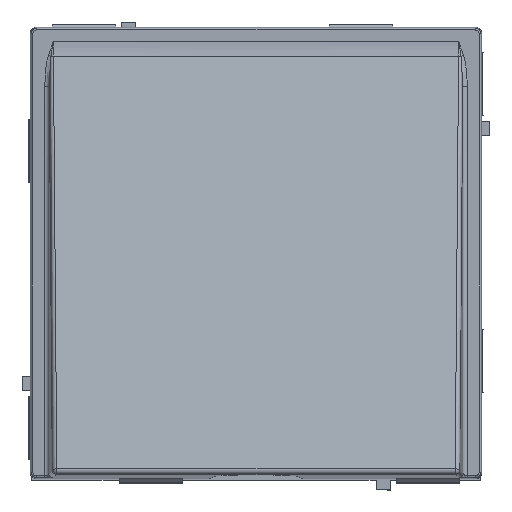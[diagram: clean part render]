
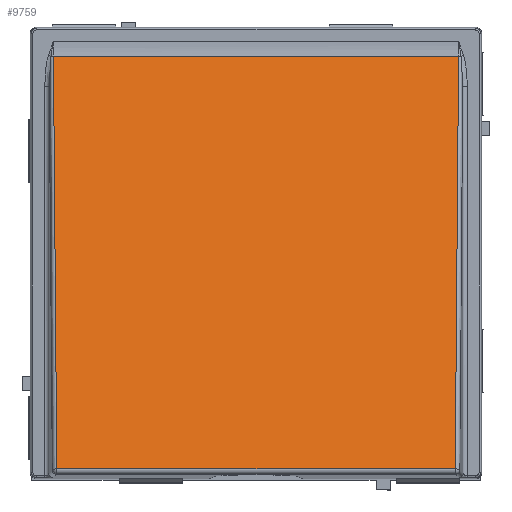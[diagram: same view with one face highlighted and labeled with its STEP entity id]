
A CAD part, top view. The second image highlights one B-rep face of the part: STEP entity #9759.
In plain terms, the highlighted planar face has unit normal (0, 0.227, 0.974).
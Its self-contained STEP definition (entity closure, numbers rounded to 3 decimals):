
#610 = CARTESIAN_POINT ( 'NONE',  ( 31.814, 31.382, 7.56 ) ) ;
#830 = LINE ( 'NONE', #5123, #27181 ) ;
#1719 = CARTESIAN_POINT ( 'NONE',  ( -35., -35., 23. ) ) ;
#1933 = VERTEX_POINT ( 'NONE', #6920 ) ;
#2104 = DIRECTION ( 'NONE',  ( 0.008, -0.974, 0.227 ) ) ;
#5123 = CARTESIAN_POINT ( 'NONE',  ( -35., -33.479, 22.646 ) ) ;
#5355 = VECTOR ( 'NONE', #18571, 1000. ) ;
#5722 = EDGE_CURVE ( 'NONE', #21691, #1933, #13214, .T. ) ;
#6920 = CARTESIAN_POINT ( 'NONE',  ( -31.287, -33.479, 22.646 ) ) ;
#8072 = CARTESIAN_POINT ( 'NONE',  ( -32.5, 31.382, 7.56 ) ) ;
#8309 = ORIENTED_EDGE ( 'NONE', *, *, #13809, .T. ) ;
#9759 = ADVANCED_FACE ( 'NONE', ( #21966 ), #28035, .F. ) ;
#9869 = CARTESIAN_POINT ( 'NONE',  ( -31.814, 31.382, 7.56 ) ) ;
#10297 = LINE ( 'NONE', #8072, #14875 ) ;
#10615 = DIRECTION ( 'NONE',  ( 0., -0.974, 0.227 ) ) ;
#11335 = EDGE_LOOP ( 'NONE', ( #16050, #8309, #19963, #22607 ) ) ;
#11414 = EDGE_CURVE ( 'NONE', #13469, #21691, #10297, .T. ) ;
#12170 = EDGE_CURVE ( 'NONE', #1933, #23821, #830, .T. ) ;
#13214 = LINE ( 'NONE', #15412, #25021 ) ;
#13469 = VERTEX_POINT ( 'NONE', #610 ) ;
#13809 = EDGE_CURVE ( 'NONE', #23821, #13469, #23472, .T. ) ;
#14485 = CARTESIAN_POINT ( 'NONE',  ( 31.287, -33.479, 22.646 ) ) ;
#14875 = VECTOR ( 'NONE', #28290, 1000. ) ;
#15412 = CARTESIAN_POINT ( 'NONE',  ( -31.281, -34.302, 22.838 ) ) ;
#16050 = ORIENTED_EDGE ( 'NONE', *, *, #12170, .T. ) ;
#17233 = DIRECTION ( 'NONE',  ( 0., -0.227, -0.974 ) ) ;
#17700 = AXIS2_PLACEMENT_3D ( 'NONE', #1719, #17233, #10615 ) ;
#18571 = DIRECTION ( 'NONE',  ( 0.008, 0.974, -0.227 ) ) ;
#19963 = ORIENTED_EDGE ( 'NONE', *, *, #11414, .T. ) ;
#21691 = VERTEX_POINT ( 'NONE', #9869 ) ;
#21966 = FACE_OUTER_BOUND ( 'NONE', #11335, .T. ) ;
#22607 = ORIENTED_EDGE ( 'NONE', *, *, #5722, .T. ) ;
#23002 = DIRECTION ( 'NONE',  ( 1., 0., 0. ) ) ;
#23472 = LINE ( 'NONE', #27893, #5355 ) ;
#23821 = VERTEX_POINT ( 'NONE', #14485 ) ;
#25021 = VECTOR ( 'NONE', #2104, 1000. ) ;
#27181 = VECTOR ( 'NONE', #23002, 1000. ) ;
#27893 = CARTESIAN_POINT ( 'NONE',  ( 31.814, 31.387, 7.559 ) ) ;
#28035 = PLANE ( 'NONE',  #17700 ) ;
#28290 = DIRECTION ( 'NONE',  ( -1., 0., 0. ) ) ;
